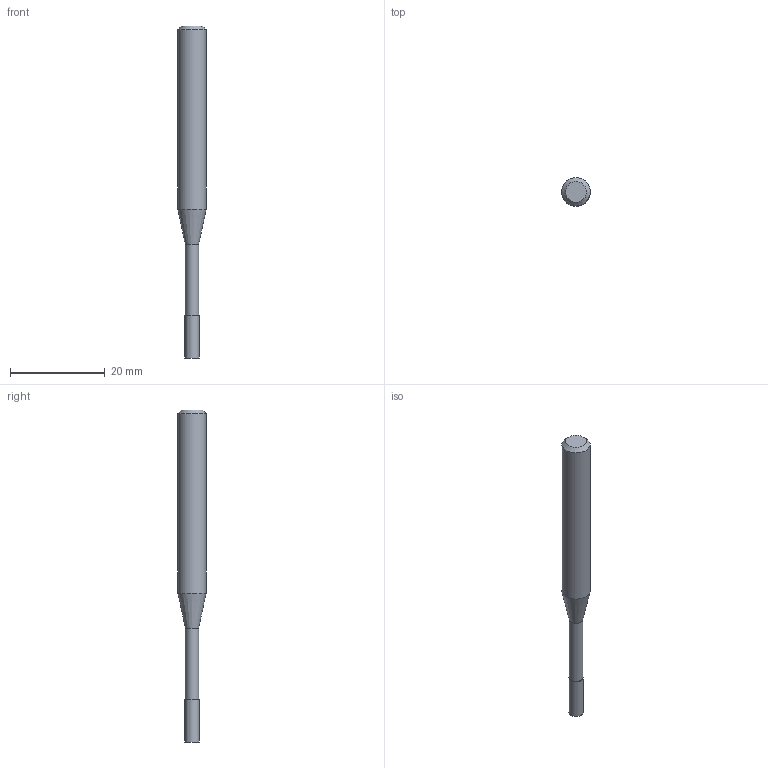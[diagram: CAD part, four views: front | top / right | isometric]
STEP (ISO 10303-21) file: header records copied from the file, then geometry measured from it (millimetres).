
FILE_DESCRIPTION((''),'2;1');
FILE_NAME('C:\Users\nsx150\Desktop\RSE230_20210427\01-00644-03024 RSE230 D3X9X24.step','2021-05-07T14:53:59',(''),(''),'STEP Write','Mastercam 2021 ... CNC Software, Inc.','');
FILE_SCHEMA(('AUTOMOTIVE_DESIGN'));
Length unit declared in the file: millimetre
Products named in the file (1): None
Bounding box: 6 x 6 x 70 mm (x, y, z)
Volume: 1363.7 mm3; surface area: 1091 mm2
Topology: 2 solids, 2 shells, 9 faces, 12 edges, 7 vertices
Faces by surface type: plane 4, cylinder 3, cone 2
Full cylindrical faces by diameter (mm): 2.85 x1, 3 x1, 6 x1
Entity records: 211 total; most frequent: DIRECTION 36, CARTESIAN_POINT 25, AXIS2_PLACEMENT_3D 18, ORIENTED_EDGE 14, EDGE_LOOP 14, STYLED_ITEM 12, ADVANCED_FACE 9, FACE_BOUND 8
